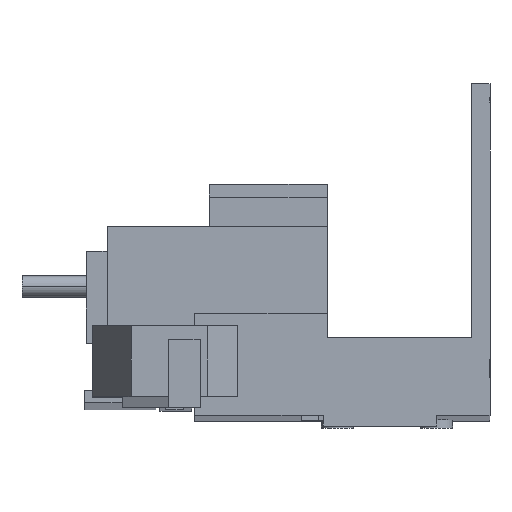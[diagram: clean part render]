
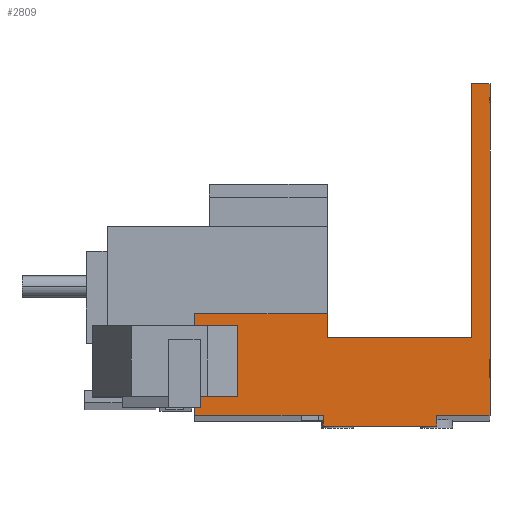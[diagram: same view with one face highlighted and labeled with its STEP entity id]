
A CAD part, front view. The second image highlights one B-rep face of the part: STEP entity #2809.
In plain terms, the highlighted planar face has unit normal (0, -1, 0.002).
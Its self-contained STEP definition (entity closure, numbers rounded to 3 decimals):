
#8 = ORIENTED_EDGE ( 'NONE', *, *, #4541, .T. ) ;
#38 = ORIENTED_EDGE ( 'NONE', *, *, #2940, .T. ) ;
#54 = ORIENTED_EDGE ( 'NONE', *, *, #2938, .F. ) ;
#59 = LINE ( 'NONE', #5530, #194 ) ;
#60 = ORIENTED_EDGE ( 'NONE', *, *, #2603, .T. ) ;
#113 = ORIENTED_EDGE ( 'NONE', *, *, #3014, .T. ) ;
#127 = ORIENTED_EDGE ( 'NONE', *, *, #2963, .T. ) ;
#147 = ORIENTED_EDGE ( 'NONE', *, *, #3093, .T. ) ;
#155 = ORIENTED_EDGE ( 'NONE', *, *, #3017, .T. ) ;
#174 = ORIENTED_EDGE ( 'NONE', *, *, #2936, .F. ) ;
#179 = ORIENTED_EDGE ( 'NONE', *, *, #2968, .T. ) ;
#194 = VECTOR ( 'NONE', #5533, 1000. ) ;
#258 = ORIENTED_EDGE ( 'NONE', *, *, #2934, .T. ) ;
#266 = ORIENTED_EDGE ( 'NONE', *, *, #5061, .T. ) ;
#421 = VERTEX_POINT ( 'NONE', #5165 ) ;
#422 = VERTEX_POINT ( 'NONE', #5154 ) ;
#434 = VERTEX_POINT ( 'NONE', #5177 ) ;
#561 = VERTEX_POINT ( 'NONE', #5295 ) ;
#562 = VERTEX_POINT ( 'NONE', #5296 ) ;
#576 = VERTEX_POINT ( 'NONE', #5310 ) ;
#577 = VERTEX_POINT ( 'NONE', #5311 ) ;
#578 = VERTEX_POINT ( 'NONE', #5312 ) ;
#584 = VERTEX_POINT ( 'NONE', #5318 ) ;
#585 = VERTEX_POINT ( 'NONE', #5319 ) ;
#621 = VERTEX_POINT ( 'NONE', #5355 ) ;
#625 = VERTEX_POINT ( 'NONE', #5359 ) ;
#1319 = LINE ( 'NONE', #6230, #1323 ) ;
#1323 = VECTOR ( 'NONE', #6232, 1000. ) ;
#1324 = LINE ( 'NONE', #6234, #1328 ) ;
#1328 = VECTOR ( 'NONE', #6233, 1000. ) ;
#1817 = LINE ( 'NONE', #4040, #2521 ) ;
#1843 = LINE ( 'NONE', #3979, #2293 ) ;
#1889 = LINE ( 'NONE', #3986, #2103 ) ;
#1934 = VECTOR ( 'NONE', #3999, 1000. ) ;
#2042 = LINE ( 'NONE', #4335, #2398 ) ;
#2083 = LINE ( 'NONE', #4152, #2109 ) ;
#2103 = VECTOR ( 'NONE', #3995, 1000. ) ;
#2105 = LINE ( 'NONE', #3990, #2578 ) ;
#2109 = VECTOR ( 'NONE', #4156, 1000. ) ;
#2151 = LINE ( 'NONE', #3998, #1934 ) ;
#2220 = LINE ( 'NONE', #4161, #2465 ) ;
#2281 = LINE ( 'NONE', #4055, #2456 ) ;
#2293 = VECTOR ( 'NONE', #3987, 1000. ) ;
#2342 = FACE_OUTER_BOUND ( 'NONE', #4689, .T. ) ;
#2398 = VECTOR ( 'NONE', #4336, 1000. ) ;
#2456 = VECTOR ( 'NONE', #4061, 1000. ) ;
#2465 = VECTOR ( 'NONE', #4162, 1000. ) ;
#2521 = VECTOR ( 'NONE', #4041, 1000. ) ;
#2578 = VECTOR ( 'NONE', #3992, 1000. ) ;
#2603 = EDGE_CURVE ( 'NONE', #584, #576, #59, .T. ) ;
#2809 = ADVANCED_FACE ( 'NONE', ( #2342 ), #3673, .F. ) ;
#2934 = EDGE_CURVE ( 'NONE', #576, #577, #1843, .T. ) ;
#2936 = EDGE_CURVE ( 'NONE', #561, #625, #2105, .T. ) ;
#2938 = EDGE_CURVE ( 'NONE', #562, #561, #1889, .T. ) ;
#2940 = EDGE_CURVE ( 'NONE', #562, #421, #2151, .T. ) ;
#2963 = EDGE_CURVE ( 'NONE', #621, #585, #1817, .T. ) ;
#2968 = EDGE_CURVE ( 'NONE', #585, #584, #2281, .T. ) ;
#3014 = EDGE_CURVE ( 'NONE', #421, #621, #2083, .T. ) ;
#3017 = EDGE_CURVE ( 'NONE', #422, #625, #2220, .T. ) ;
#3093 = EDGE_CURVE ( 'NONE', #434, #422, #2042, .T. ) ;
#3411 = AXIS2_PLACEMENT_3D ( 'NONE', #3666, #3675, #3676 ) ;
#3666 = CARTESIAN_POINT ( 'NONE',  ( 0., -33.076, -36.181 ) ) ;
#3673 = PLANE ( 'NONE',  #3411 ) ;
#3675 = DIRECTION ( 'NONE',  ( 0., 1., -0.002 ) ) ;
#3676 = DIRECTION ( 'NONE',  ( -1., 0., 0. ) ) ;
#3979 = CARTESIAN_POINT ( 'NONE',  ( -2., -33.053, -25.181 ) ) ;
#3986 = CARTESIAN_POINT ( 'NONE',  ( -7.5, -33.079, -37.681 ) ) ;
#3987 = DIRECTION ( 'NONE',  ( -1., 0., 0. ) ) ;
#3990 = CARTESIAN_POINT ( 'NONE',  ( -23.5, -33.079, -37.681 ) ) ;
#3992 = DIRECTION ( 'NONE',  ( 0., 0.002, 1. ) ) ;
#3995 = DIRECTION ( 'NONE',  ( -1., 0., 0. ) ) ;
#3998 = CARTESIAN_POINT ( 'NONE',  ( -7.5, -33.079, -37.681 ) ) ;
#3999 = DIRECTION ( 'NONE',  ( 0., 0.002, 1. ) ) ;
#4040 = CARTESIAN_POINT ( 'NONE',  ( 0., -32.978, 10.519 ) ) ;
#4041 = DIRECTION ( 'NONE',  ( 0., 0.002, 1. ) ) ;
#4055 = CARTESIAN_POINT ( 'NONE',  ( -2.55, -32.978, 10.519 ) ) ;
#4061 = DIRECTION ( 'NONE',  ( -1., 0., 0. ) ) ;
#4152 = CARTESIAN_POINT ( 'NONE',  ( 0., -33.076, -36.181 ) ) ;
#4156 = DIRECTION ( 'NONE',  ( 1., 0., 0. ) ) ;
#4161 = CARTESIAN_POINT ( 'NONE',  ( 0., -33.076, -36.181 ) ) ;
#4162 = DIRECTION ( 'NONE',  ( 1., 0., 0. ) ) ;
#4335 = CARTESIAN_POINT ( 'NONE',  ( -41.6, -33.076, -36.181 ) ) ;
#4336 = DIRECTION ( 'NONE',  ( 0., -0.002, -1. ) ) ;
#4541 = EDGE_CURVE ( 'NONE', #578, #434, #1319, .T. ) ;
#4689 = EDGE_LOOP ( 'NONE', ( #258, #266, #8, #147, #155, #174, #54, #38, #113, #127, #179, #60 ) ) ;
#5061 = EDGE_CURVE ( 'NONE', #577, #578, #1324, .T. ) ;
#5154 = CARTESIAN_POINT ( 'NONE',  ( -41.6, -33.076, -36.181 ) ) ;
#5165 = CARTESIAN_POINT ( 'NONE',  ( -7.5, -33.076, -36.181 ) ) ;
#5177 = CARTESIAN_POINT ( 'NONE',  ( -41.6, -33.046, -21.831 ) ) ;
#5295 = CARTESIAN_POINT ( 'NONE',  ( -23.5, -33.079, -37.681 ) ) ;
#5296 = CARTESIAN_POINT ( 'NONE',  ( -7.5, -33.079, -37.681 ) ) ;
#5310 = CARTESIAN_POINT ( 'NONE',  ( -2.55, -33.053, -25.181 ) ) ;
#5311 = CARTESIAN_POINT ( 'NONE',  ( -22.92, -33.053, -25.181 ) ) ;
#5312 = CARTESIAN_POINT ( 'NONE',  ( -22.92, -33.046, -21.831 ) ) ;
#5318 = CARTESIAN_POINT ( 'NONE',  ( -2.55, -32.978, 10.519 ) ) ;
#5319 = CARTESIAN_POINT ( 'NONE',  ( 0., -32.978, 10.519 ) ) ;
#5355 = CARTESIAN_POINT ( 'NONE',  ( 0., -33.076, -36.181 ) ) ;
#5359 = CARTESIAN_POINT ( 'NONE',  ( -23.5, -33.076, -36.181 ) ) ;
#5530 = CARTESIAN_POINT ( 'NONE',  ( -2.55, -33.072, -34.53 ) ) ;
#5533 = DIRECTION ( 'NONE',  ( 0., -0.002, -1. ) ) ;
#6230 = CARTESIAN_POINT ( 'NONE',  ( -41.6, -33.046, -21.831 ) ) ;
#6232 = DIRECTION ( 'NONE',  ( -1., 0., 0. ) ) ;
#6233 = DIRECTION ( 'NONE',  ( 0., 0.002, 1. ) ) ;
#6234 = CARTESIAN_POINT ( 'NONE',  ( -22.92, -33.046, -21.831 ) ) ;
